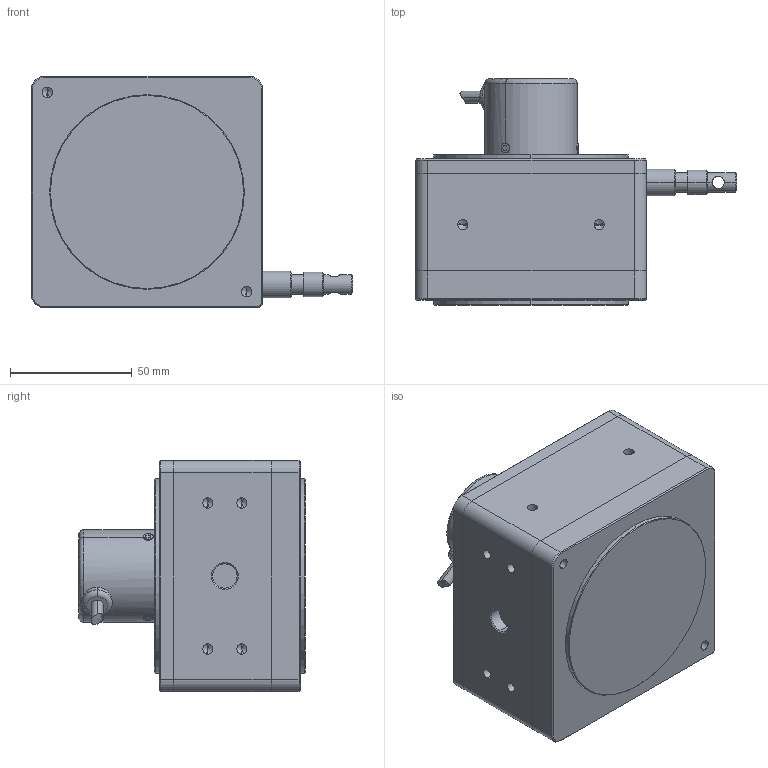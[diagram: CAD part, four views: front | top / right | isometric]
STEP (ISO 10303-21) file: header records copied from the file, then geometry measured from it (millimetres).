
FILE_DESCRIPTION (( 'STEP AP203' ), '1' );
FILE_NAME ('嶺盄碟_7m.STEP', '2022-01-22T10:14:35', ( '' ), ( '' ), 'SwSTEP 2.0', 'SolidWorks 2014', '' );
FILE_SCHEMA (( 'CONFIG_CONTROL_DESIGN' ));
Length unit declared in the file: millimetre
Products named in the file (3): 嶺盄碟_7m; BRT38-SOM4096-RT1
Assembly tree (2 placements, depth 2):
  嶺盄碟_7m
    嶺盄碟_7m
    BRT38-SOM4096-RT1
Bounding box: 132 x 93 x 95 mm (x, y, z)
Volume: 575869.6 mm3; surface area: 53125.1 mm2
Topology: 3 solids, 3 shells, 211 faces, 487 edges, 280 vertices
Faces by surface type: cylinder 86, cone 52, plane 46, bspline 19, torus 8
Entity records: 7471 total; most frequent: CARTESIAN_POINT 2590, DIRECTION 972, ORIENTED_EDGE 918, EDGE_CURVE 459, AXIS2_PLACEMENT_3D 394, VERTEX_POINT 280, EDGE_LOOP 247, FACE_OUTER_BOUND 211
